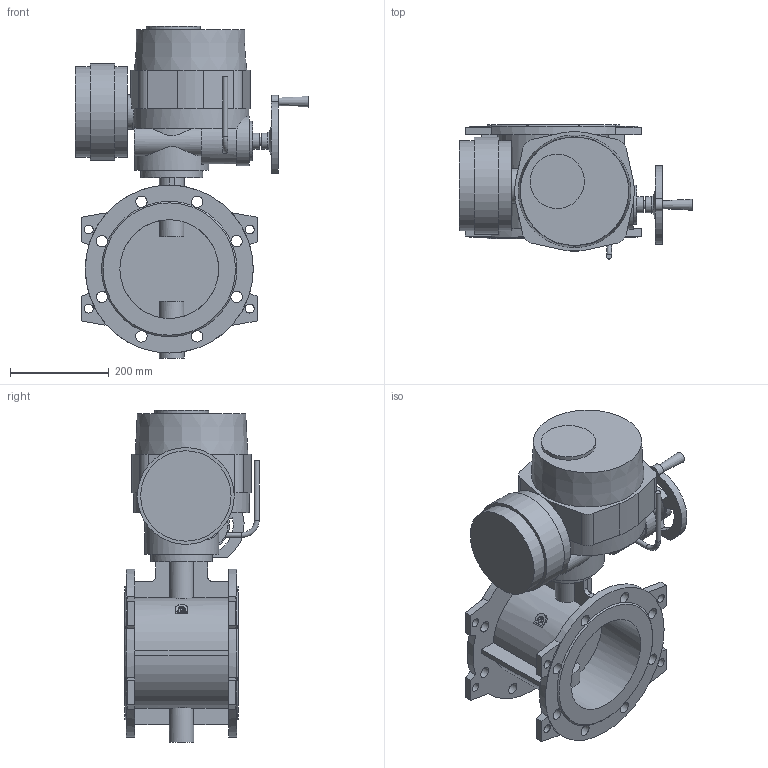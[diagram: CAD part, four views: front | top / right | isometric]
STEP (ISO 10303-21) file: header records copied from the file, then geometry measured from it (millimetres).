
FILE_DESCRIPTION(('STEP AP203'), '1');
FILE_NAME('Çàòâîð 023F.Z DN200 PN10 + ýëåêòðîïðèâîä QT.A030', '2026-04-27T09:31:07', (''), (''), 'ASCON STEP Converter 1.6', 'ASCON Math Kernel', '');
FILE_SCHEMA(('CONFIG_CONTROL_DESIGN'));
Length unit declared in the file: millimetre
Bounding box: 472 x 272 x 672 mm (x, y, z)
Volume: 19807495.1 mm3; surface area: 1184338.4 mm2
Topology: 1 solids, 1 shells, 233 faces, 632 edges, 417 vertices
Faces by surface type: plane 133, cylinder 94, cone 5, torus 1
Full cylindrical faces by diameter (mm): 6.7 x8, 10 x2, 12 x4, 16 x1, 18 x8, 23 x16, 32 x2, 35 x1, 50 x1, 70 x1, 80 x1, 100 x1, 110 x1, 125 x1, 150 x1, 183 x2, 196 x1, 200 x2, 340 x2
Entity records: 11761 total; most frequent: CARTESIAN_POINT 3948, DIRECTION 1255, ORIENTED_EDGE 1140, EDGE_CURVE 570, AXIS2_PLACEMENT_3D 495, VERTEX_POINT 417, EDGE_LOOP 365, FACE_BOUND 271
